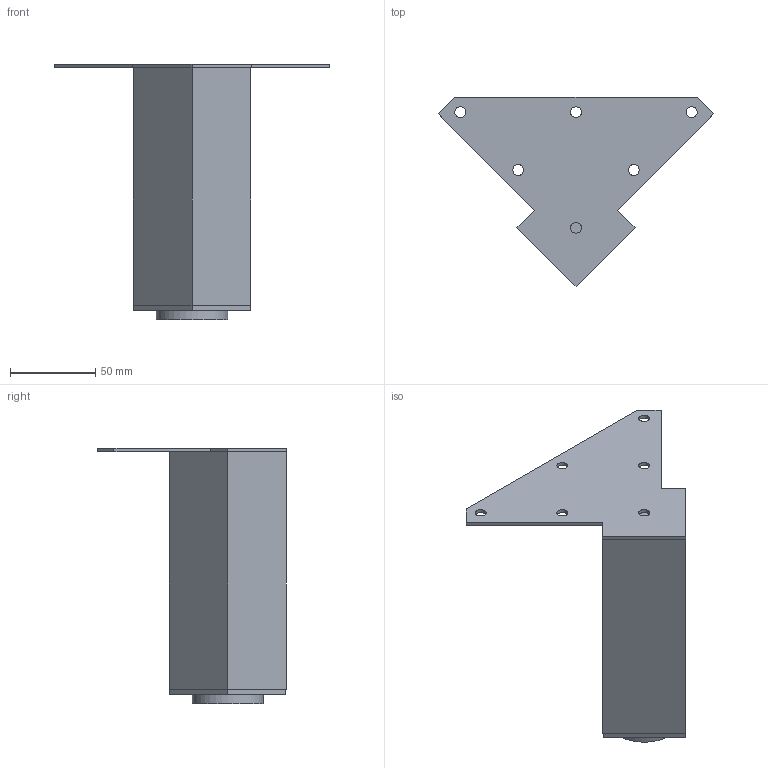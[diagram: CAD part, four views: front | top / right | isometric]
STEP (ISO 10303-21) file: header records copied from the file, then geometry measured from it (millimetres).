
FILE_DESCRIPTION( ( 'STEP AP214' ), '1' );
FILE_NAME( 'D:/Yug/2021/Delta/desk_and_office_organisation/QC/9206866.stp', '2021-01-20T05:58:53', ( '' ), ( '' ), ' ', 'PARTsolutions', ' ' );
FILE_SCHEMA( ( 'AUTOMOTIVE_DESIGN { 1 0 10303 214 1 1 1 1 }' ) );
Length unit declared in the file: millimetre
Products named in the file (1): _9206866
Bounding box: 161.93 x 111.37 x 150 mm (x, y, z)
Volume: 362168 mm3; surface area: 47796.7 mm2
Topology: 1 solids, 1 shells, 30 faces, 72 edges, 48 vertices
Faces by surface type: plane 23, cylinder 7
Full cylindrical faces by diameter (mm): 6.4 x6, 41.8 x1
Entity records: 1111 total; most frequent: CARTESIAN_POINT 144, DIRECTION 141, ORIENTED_EDGE 130, EDGE_CURVE 65, EDGE_LOOP 51, LINE 51, VECTOR 51, VERTEX_POINT 48
